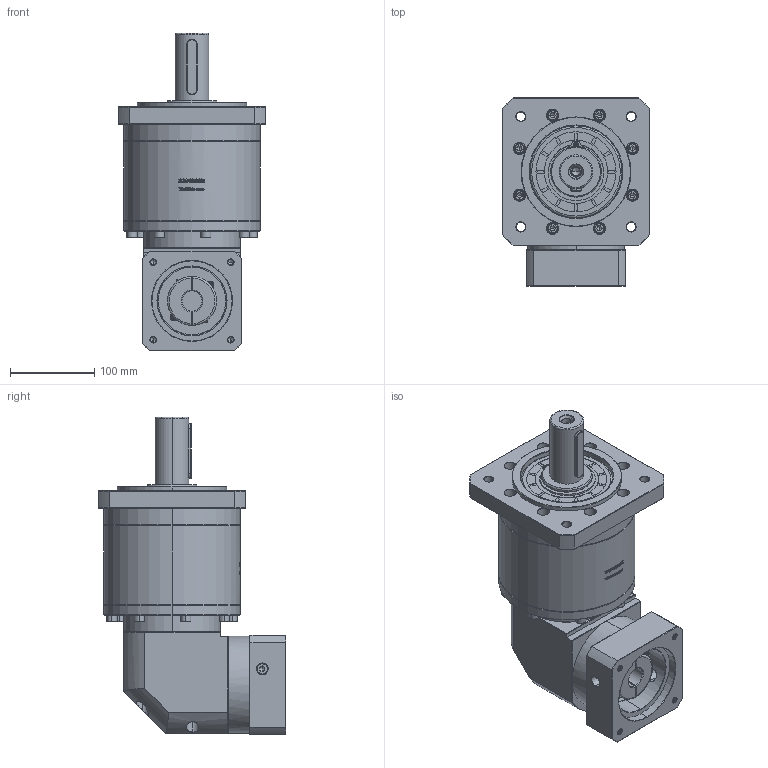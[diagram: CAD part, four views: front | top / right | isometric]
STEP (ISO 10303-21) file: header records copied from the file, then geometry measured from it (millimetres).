
FILE_DESCRIPTION (( 'STEP AP214' ), '1' );
FILE_NAME ('ZFR160A-D40-L3-24-95-130-M8.step', '2023-03-25T01:57:41', ( '' ), ( '' ), 'SwSTEP 2.0', 'SolidWorks 2016', '' );
FILE_SCHEMA (( 'AUTOMOTIVE_DESIGN' ));
Length unit declared in the file: millimetre
Products named in the file (1): ZFR160A-D40-L3-24-95-130-M8
Bounding box: 175 x 222.4 x 376.2 mm (x, y, z)
Volume: 5642805.3 mm3; surface area: 359341.6 mm2
Topology: 6 solids, 6 shells, 2783 faces, 7268 edges, 4658 vertices
Faces by surface type: plane 1373, bspline 497, cylinder 496, cone 371, torus 46
Entity records: 150170 total; most frequent: CARTESIAN_POINT 55536, ORIENTED_EDGE 14428, DIRECTION 11403, EDGE_CURVE 7214, VERTEX_POINT 4658, VECTOR 4503, LINE 4503, AXIS2_PLACEMENT_3D 3450
